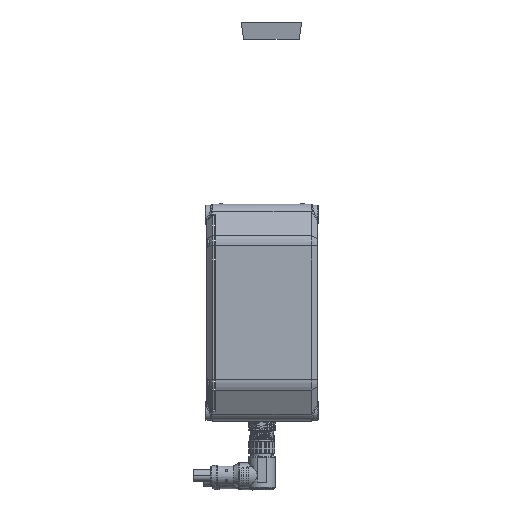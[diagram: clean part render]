
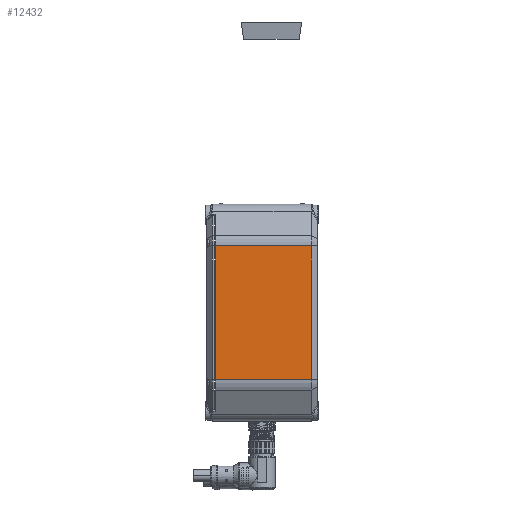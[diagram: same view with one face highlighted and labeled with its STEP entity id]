
A CAD part, left-side view. The second image highlights one B-rep face of the part: STEP entity #12432.
In plain terms, the highlighted planar face has unit normal (1, 0, 0).
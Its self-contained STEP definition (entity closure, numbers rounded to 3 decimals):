
#3905=DIRECTION('',(0.,1.,0.));
#3906=VECTOR('',#3905,55.5);
#3907=CARTESIAN_POINT('',(-105.,3.5,
-33.5));
#3908=LINE('',#3907,#3906);
#3918=DIRECTION('',(0.,0.,1.));
#3919=VECTOR('',#3918,77.);
#3920=CARTESIAN_POINT('',(-105.,3.5,
-33.5));
#3921=LINE('',#3920,#3919);
#3922=DIRECTION('',(0.,0.,-1.));
#3923=VECTOR('',#3922,77.);
#3924=CARTESIAN_POINT('',(-105.,59.,43.5));
#3925=LINE('',#3924,#3923);
#3948=DIRECTION('',(0.,-1.,0.));
#3949=VECTOR('',#3948,55.5);
#3950=CARTESIAN_POINT('',(-105.,59.,43.5));
#3951=LINE('',#3950,#3949);
#8176=CARTESIAN_POINT('',(-105.,59.,-33.5));
#8178=VERTEX_POINT('',#8176);
#8180=CARTESIAN_POINT('',(-105.,59.,43.5));
#8181=VERTEX_POINT('',#8180);
#8829=CARTESIAN_POINT('',(-105.,3.5,-33.5));
#8830=VERTEX_POINT('',#8829);
#8831=CARTESIAN_POINT('',(-105.,3.5,43.5));
#8832=VERTEX_POINT('',#8831);
#12418=CARTESIAN_POINT('',(-105.,31.25,
5.));
#12419=DIRECTION('',(1.,0.,0.));
#12420=DIRECTION('',(0.,0.,-1.));
#12421=AXIS2_PLACEMENT_3D('',#12418,#12419,#12420);
#12422=PLANE('',#12421);
#12424=ORIENTED_EDGE('',*,*,#12423,.T.);
#12426=ORIENTED_EDGE('',*,*,#12425,.F.);
#12428=ORIENTED_EDGE('',*,*,#12427,.T.);
#12429=ORIENTED_EDGE('',*,*,#12409,.F.);
#12430=EDGE_LOOP('',(#12424,#12426,#12428,#12429));
#12431=FACE_OUTER_BOUND('',#12430,.F.);
#12409=EDGE_CURVE('',#8830,#8178,#3908,.T.);
#12423=EDGE_CURVE('',#8830,#8832,#3921,.T.);
#12425=EDGE_CURVE('',#8181,#8832,#3951,.T.);
#12427=EDGE_CURVE('',#8181,#8178,#3925,.T.);
#12432=ADVANCED_FACE('',(#12431),#12422,.T.);
